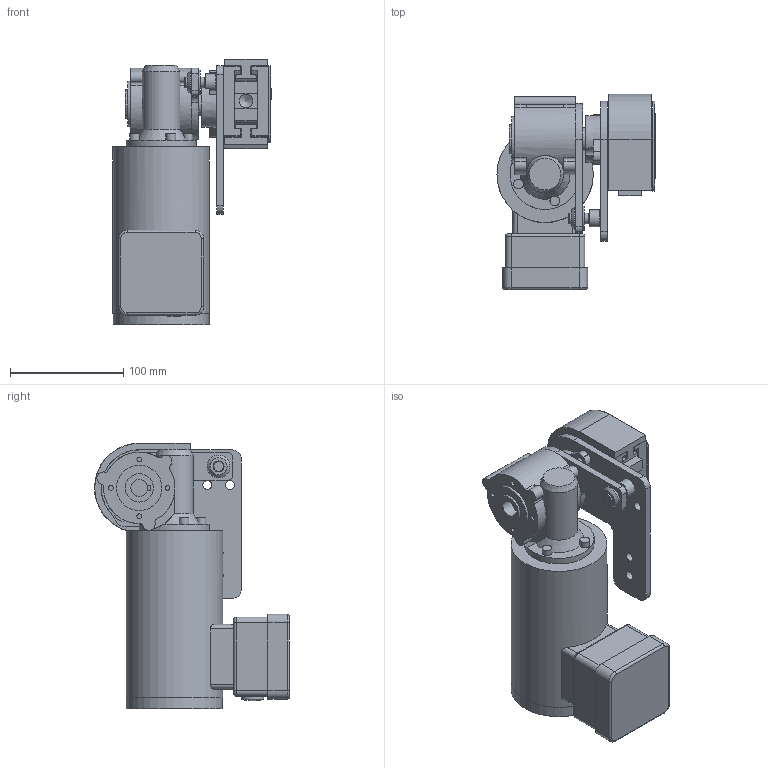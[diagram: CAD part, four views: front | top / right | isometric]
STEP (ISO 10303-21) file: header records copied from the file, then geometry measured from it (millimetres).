
FILE_DESCRIPTION((''),'2;1');
FILE_NAME('E:\Vault\Projekt\S380\3D S380\Serie 380\380-310V.stp','2010-11-30T15:06:18',('Per'),(''),'Autodesk Inventor 2011','Autodesk Inventor 2011','');
FILE_SCHEMA(('AUTOMOTIVE_DESIGN { 1 0 10303 214 1 1 1 1 }'));
Length unit declared in the file: millimetre
Products named in the file (1): 380-310V
Bounding box: 139.5 x 171.99 x 234.5 mm (x, y, z)
Volume: 1584677.5 mm3; surface area: 212014.5 mm2
Topology: 1 solids, 5 shells, 817 faces, 1940 edges, 1168 vertices
Faces by surface type: plane 332, cylinder 303, torus 119, sphere 33, bspline 16, cone 14
Full cylindrical faces by diameter (mm): 3.242 x2, 4 x8, 4.134 x9, 4.917 x2, 5.2 x4, 6.647 x2, 7 x6, 7.5 x4, 8 x4, 8.5 x3, 9.4 x1, 9.6 x1, 12 x1, 14.376 x2, 15 x2, 20 x2, 20.5 x1, 21.5 x1, 22 x2, 25 x3, 27 x1, 32 x2, 33 x1, 33.7 x1, 34 x2, 35 x1, 40 x2, 40.2 x1, 56 x1, 84.8 x1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
Entity records: 30160 total; most frequent: CARTESIAN_POINT 10810, DIRECTION 4080, ORIENTED_EDGE 3516, EDGE_CURVE 1758, AXIS2_PLACEMENT_3D 1594, VERTEX_POINT 1140, EDGE_LOOP 1040, VECTOR 892
